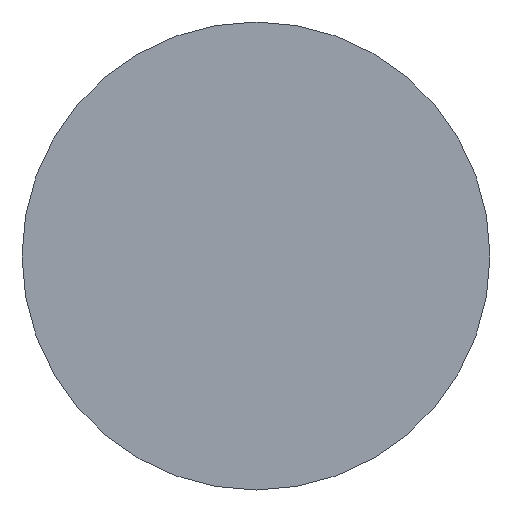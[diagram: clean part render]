
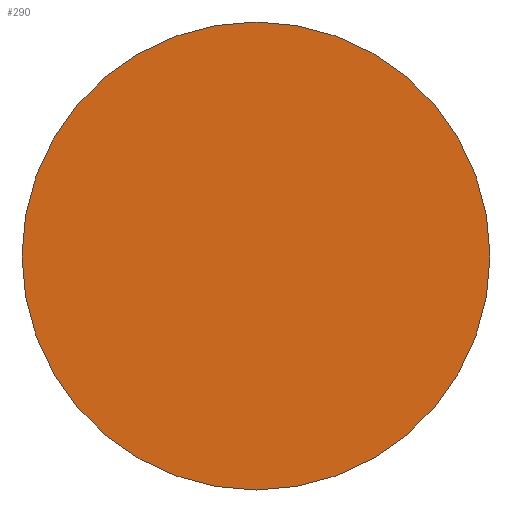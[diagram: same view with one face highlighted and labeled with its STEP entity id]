
A CAD part, left-side view. The second image highlights one B-rep face of the part: STEP entity #290.
In plain terms, the highlighted planar face has unit normal (-1, 0, 0).
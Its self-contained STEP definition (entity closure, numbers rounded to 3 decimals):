
#31=PLANE('',#348);
#50=FACE_OUTER_BOUND('',#71,.T.);
#71=EDGE_LOOP('',(#255,#256));
#125=CIRCLE('',#346,8.);
#126=CIRCLE('',#347,8.);
#152=VERTEX_POINT('',#529);
#153=VERTEX_POINT('',#531);
#189=EDGE_CURVE('',#153,#152,#125,.T.);
#190=EDGE_CURVE('',#152,#153,#126,.T.);
#255=ORIENTED_EDGE('',*,*,#189,.T.);
#256=ORIENTED_EDGE('',*,*,#190,.T.);
#290=ADVANCED_FACE('',(#50),#31,.T.);
#346=AXIS2_PLACEMENT_3D('',#532,#444,#445);
#347=AXIS2_PLACEMENT_3D('',#533,#446,#447);
#348=AXIS2_PLACEMENT_3D('',#534,#448,#449);
#444=DIRECTION('center_axis',(-1.,0.,0.));
#445=DIRECTION('ref_axis',(0.,0.,-1.));
#446=DIRECTION('center_axis',(-1.,0.,0.));
#447=DIRECTION('ref_axis',(0.,0.,-1.));
#448=DIRECTION('center_axis',(-1.,0.,0.));
#449=DIRECTION('ref_axis',(0.,0.,1.));
#529=CARTESIAN_POINT('',(0.,0.,8.));
#531=CARTESIAN_POINT('',(0.,0.,-8.));
#532=CARTESIAN_POINT('Origin',(0.,0.,0.));
#533=CARTESIAN_POINT('Origin',(0.,0.,0.));
#534=CARTESIAN_POINT('Origin',(0.,0.,0.));
